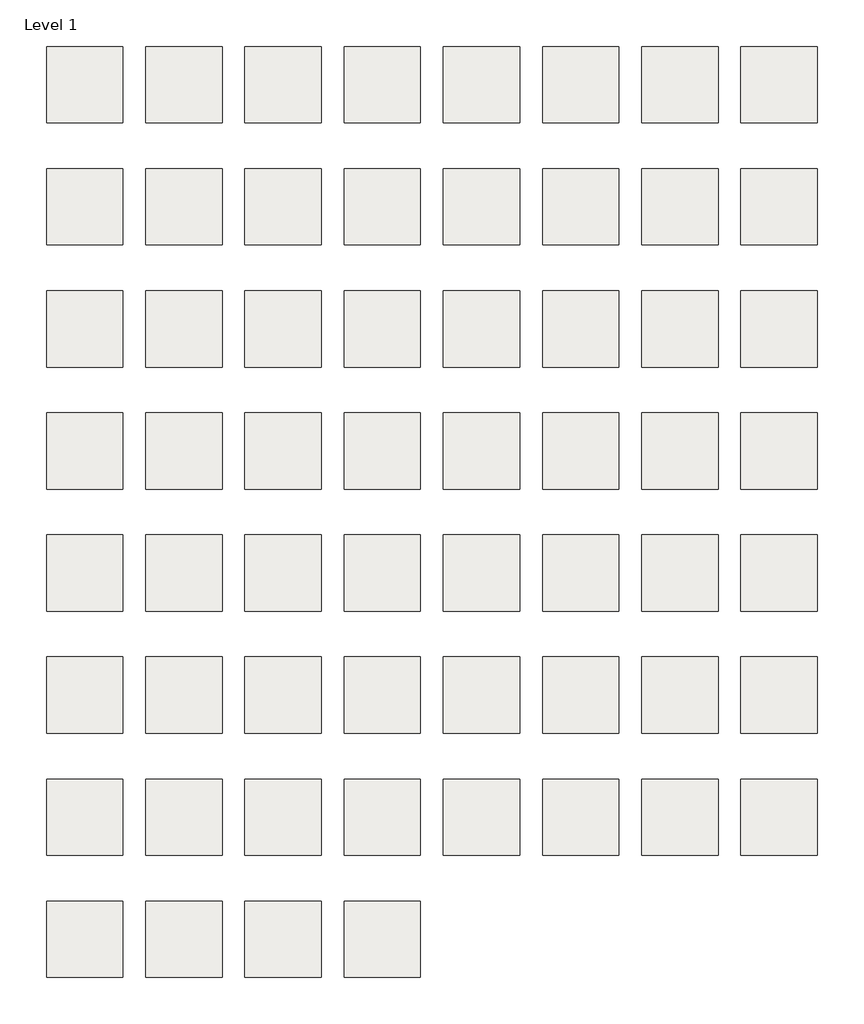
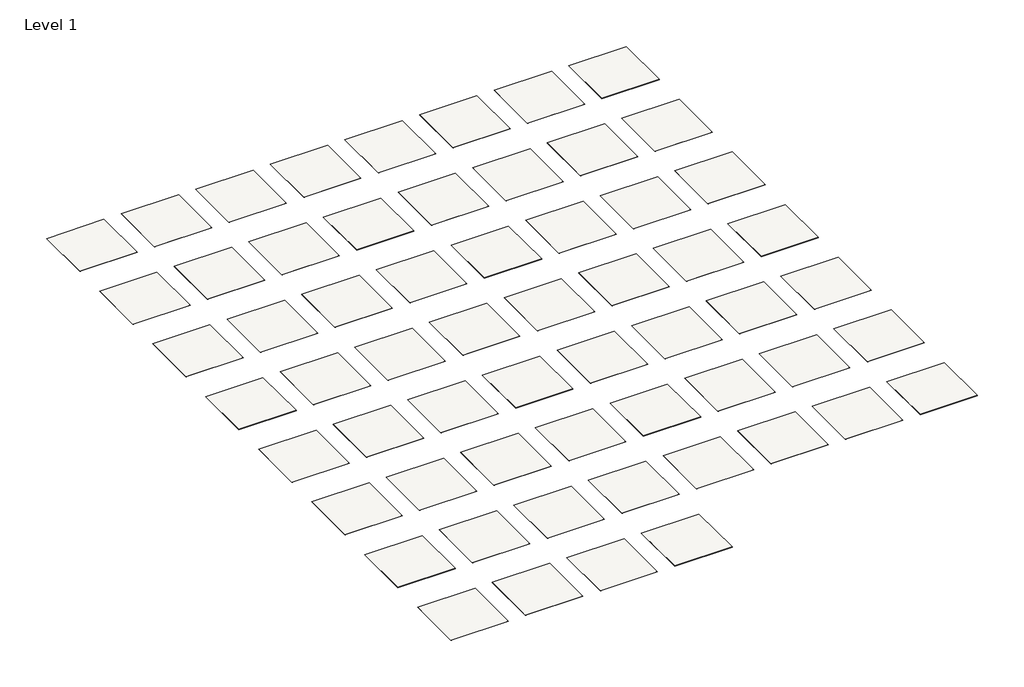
# One storey: 60 slabs.
"""IFC4 building model written with IfcOpenShell, lengths in millimetres."""

from ifc_helpers import new_model, si_unit, frame, origin, place, context, project, spatial, polyline, outline, extrude, element, save

model = new_model("IFC4")

# Units and contexts
model_context = context("Model", 3, world=origin())
ifc_project = project(units=[si_unit("LENGTHUNIT", "METRE", prefix="MILLI")], contexts=[model_context])

# Site, building, storey
site = spatial("IfcSite", under=ifc_project)
building = spatial("IfcBuilding", under=site)
storey = spatial("IfcBuildingStorey", under=building, Name="Level 1", Elevation=0.0)

# Slabs
placement = place(None, origin())
element("IfcSlab", 1, ObjectType="Armstrong_LVT_Natural Creations Arbor Art_NA120_Coastal Crafted Maritime", at=placement, inside=storey, context=model_context, shape_type="SweptSolid", body=[
    extrude(outline(polyline([(11236.4055838, 2884.7695431), (11236.4055838, 1360.7695431), (9712.4055838, 1360.7695431), (9712.4055838, 2884.7695431), (11236.4055838, 2884.7695431)])), frame((0.0, 0.0, -1.984375), z_axis=(0.0, 0.0, 1.0), x_axis=(1.0, 0.0, 0.0)), (0.0, 0.0, 1.0), 1.984375),
])
element("IfcSlab", 2, ObjectType="Armstrong_LVT_Natural Creations Arbor Art_NA121_Coastal Crafted Boardwalk", at=placement, inside=storey, context=model_context, shape_type="SweptSolid", body=[
    extrude(outline(polyline([(13217.6055838, 2884.7695431), (13217.6055838, 1360.7695431), (11693.6055838, 1360.7695431), (11693.6055838, 2884.7695431), (13217.6055838, 2884.7695431)])), frame((0.0, 0.0, -1.984375), z_axis=(0.0, 0.0, 1.0), x_axis=(1.0, 0.0, 0.0)), (0.0, 0.0, 1.0), 1.984375),
])
element("IfcSlab", 3, ObjectType="Armstrong_LVT_Natural Creations Arbor Art_NA125_Urban Industry Rust Brown", at=placement, inside=storey, context=model_context, shape_type="SweptSolid", body=[
    extrude(outline(polyline([(15198.8055838, 2884.7695431), (15198.8055838, 1360.7695431), (13674.8055838, 1360.7695431), (13674.8055838, 2884.7695431), (15198.8055838, 2884.7695431)])), frame((0.0, 0.0, -1.984375), z_axis=(0.0, 0.0, 1.0), x_axis=(1.0, 0.0, 0.0)), (0.0, 0.0, 1.0), 1.984375),
])
element("IfcSlab", 4, ObjectType="Armstrong_LVT_Natural Creations Arbor Art_NA126_Urban Industry Brown Soot", at=placement, inside=storey, context=model_context, shape_type="SweptSolid", body=[
    extrude(outline(polyline([(17180.0055838, 2884.7695431), (17180.0055838, 1360.7695431), (15656.0055838, 1360.7695431), (15656.0055838, 2884.7695431), (17180.0055838, 2884.7695431)])), frame((0.0, 0.0, -1.984375), z_axis=(0.0, 0.0, 1.0), x_axis=(1.0, 0.0, 0.0)), (0.0, 0.0, 1.0), 1.984375),
])
element("IfcSlab", 5, ObjectType="Armstrong_LVT_Natural Creations Arbor Art_NA130_Orchard Estate Dove", at=placement, inside=storey, context=model_context, shape_type="SweptSolid", body=[
    extrude(outline(polyline([(3311.6055838, 446.3695431), (3311.6055838, -1077.6304569), (1787.6055838, -1077.6304569), (1787.6055838, 446.3695431), (3311.6055838, 446.3695431)])), frame((0.0, 0.0, -1.984375), z_axis=(0.0, 0.0, 1.0), x_axis=(1.0, 0.0, 0.0)), (0.0, 0.0, 1.0), 1.984375),
])
element("IfcSlab", 6, ObjectType="Armstrong_LVT_Natural Creations Arbor Art_NA130_Orchard Estate Toasted Sand", at=placement, inside=storey, context=model_context, shape_type="SweptSolid", body=[
    extrude(outline(polyline([(5292.8055838, 446.3695431), (5292.8055838, -1077.6304569), (3768.8055838, -1077.6304569), (3768.8055838, 446.3695431), (5292.8055838, 446.3695431)])), frame((0.0, 0.0, -1.984375), z_axis=(0.0, 0.0, 1.0), x_axis=(1.0, 0.0, 0.0)), (0.0, 0.0, 1.0), 1.984375),
])
element("IfcSlab", 7, ObjectType="Armstrong_LVT_Natural Creations Arbor Art_NA132_Orchard Estate Sienna Sun", at=placement, inside=storey, context=model_context, shape_type="SweptSolid", body=[
    extrude(outline(polyline([(7274.0055838, 446.3695431), (7274.0055838, -1077.6304569), (5750.0055838, -1077.6304569), (5750.0055838, 446.3695431), (7274.0055838, 446.3695431)])), frame((0.0, 0.0, -1.984375), z_axis=(0.0, 0.0, 1.0), x_axis=(1.0, 0.0, 0.0)), (0.0, 0.0, 1.0), 1.984375),
])
element("IfcSlab", 8, ObjectType="Armstrong_LVT_Natural Creations Arbor Art_NA133_Orchard Estate Island Mocha", at=placement, inside=storey, context=model_context, shape_type="SweptSolid", body=[
    extrude(outline(polyline([(9255.2055838, 446.3695431), (9255.2055838, -1077.6304569), (7731.2055838, -1077.6304569), (7731.2055838, 446.3695431), (9255.2055838, 446.3695431)])), frame((0.0, 0.0, -1.984375), z_axis=(0.0, 0.0, 1.0), x_axis=(1.0, 0.0, 0.0)), (0.0, 0.0, 1.0), 1.984375),
])
element("IfcSlab", 9, ObjectType="Armstrong_LVT_Natural Creations Arbor Art_NA140_City Mill Fog", at=placement, inside=storey, context=model_context, shape_type="SweptSolid", body=[
    extrude(outline(polyline([(15198.8055838, 446.3695431), (15198.8055838, -1077.6304569), (13674.8055838, -1077.6304569), (13674.8055838, 446.3695431), (15198.8055838, 446.3695431)])), frame((0.0, 0.0, -1.984375), z_axis=(0.0, 0.0, 1.0), x_axis=(1.0, 0.0, 0.0)), (0.0, 0.0, 1.0), 1.984375),
])
element("IfcSlab", 10, ObjectType="Armstrong_LVT_Natural Creations Arbor Art_NA141_City Mill Gray Morning", at=placement, inside=storey, context=model_context, shape_type="SweptSolid", body=[
    extrude(outline(polyline([(17180.0055838, 446.3695431), (17180.0055838, -1077.6304569), (15656.0055838, -1077.6304569), (15656.0055838, 446.3695431), (17180.0055838, 446.3695431)])), frame((0.0, 0.0, -1.984375), z_axis=(0.0, 0.0, 1.0), x_axis=(1.0, 0.0, 0.0)), (0.0, 0.0, 1.0), 1.984375),
])
element("IfcSlab", 11, ObjectType="Armstrong_LVT_Natural Creations Arbor Art_NA142_City Mill Wind Storm", at=placement, inside=storey, context=model_context, shape_type="SweptSolid", body=[
    extrude(outline(polyline([(3311.6055838, -1992.0304569), (3311.6055838, -3516.0304569), (1787.6055838, -3516.0304569), (1787.6055838, -1992.0304569), (3311.6055838, -1992.0304569)])), frame((0.0, 0.0, -1.984375), z_axis=(0.0, 0.0, 1.0), x_axis=(1.0, 0.0, 0.0)), (0.0, 0.0, 1.0), 1.984375),
])
element("IfcSlab", 12, ObjectType="Armstrong_LVT_Natural Creations Arbor Art_NA143_City Mill Sunbeam", at=placement, inside=storey, context=model_context, shape_type="SweptSolid", body=[
    extrude(outline(polyline([(5292.8055838, -1992.0304569), (5292.8055838, -3516.0304569), (3768.8055838, -3516.0304569), (3768.8055838, -1992.0304569), (5292.8055838, -1992.0304569)])), frame((0.0, 0.0, -1.984375), z_axis=(0.0, 0.0, 1.0), x_axis=(1.0, 0.0, 0.0)), (0.0, 0.0, 1.0), 1.984375),
])
element("IfcSlab", 13, ObjectType="Armstrong_LVT_Natural Creations Arbor Art_NA144_City Mill Autumn Sunset", at=placement, inside=storey, context=model_context, shape_type="SweptSolid", body=[
    extrude(outline(polyline([(7274.0055838, -1992.0304569), (7274.0055838, -3516.0304569), (5750.0055838, -3516.0304569), (5750.0055838, -1992.0304569), (7274.0055838, -1992.0304569)])), frame((0.0, 0.0, -1.984375), z_axis=(0.0, 0.0, 1.0), x_axis=(1.0, 0.0, 0.0)), (0.0, 0.0, 1.0), 1.984375),
])
element("IfcSlab", 14, ObjectType="Armstrong_LVT_Natural Creations Arbor Art_NA145_City Mill Storm Cloud", at=placement, inside=storey, context=model_context, shape_type="SweptSolid", body=[
    extrude(outline(polyline([(9255.2055838, -1992.0304569), (9255.2055838, -3516.0304569), (7731.2055838, -3516.0304569), (7731.2055838, -1992.0304569), (9255.2055838, -1992.0304569)])), frame((0.0, 0.0, -1.984375), z_axis=(0.0, 0.0, 1.0), x_axis=(1.0, 0.0, 0.0)), (0.0, 0.0, 1.0), 1.984375),
])
element("IfcSlab", 15, ObjectType="Armstrong_LVT_Natural Creations Arbor Art_NA153_Artisan Crafted Sumac", at=placement, inside=storey, context=model_context, shape_type="SweptSolid", body=[
    extrude(outline(polyline([(17180.0055838, -1992.0304569), (17180.0055838, -3516.0304569), (15656.0055838, -3516.0304569), (15656.0055838, -1992.0304569), (17180.0055838, -1992.0304569)])), frame((0.0, 0.0, -1.984375), z_axis=(0.0, 0.0, 1.0), x_axis=(1.0, 0.0, 0.0)), (0.0, 0.0, 1.0), 1.984375),
])
element("IfcSlab", 16, ObjectType="Armstrong_LVT_Natural Creations Arbor Art_NA161_Ironwood Oak Hour Glass", at=placement, inside=storey, context=model_context, shape_type="SweptSolid", body=[
    extrude(outline(polyline([(5292.8055838, -4430.4304569), (5292.8055838, -5954.4304569), (3768.8055838, -5954.4304569), (3768.8055838, -4430.4304569), (5292.8055838, -4430.4304569)])), frame((0.0, 0.0, -1.984375), z_axis=(0.0, 0.0, 1.0), x_axis=(1.0, 0.0, 0.0)), (0.0, 0.0, 1.0), 1.984375),
])
element("IfcSlab", 17, ObjectType="Armstrong_LVT_Natural Creations Arbor Art_NA163_Ironwood Oak Iron Era", at=placement, inside=storey, context=model_context, shape_type="SweptSolid", body=[
    extrude(outline(polyline([(9255.2055838, -4430.4304569), (9255.2055838, -5954.4304569), (7731.2055838, -5954.4304569), (7731.2055838, -4430.4304569), (9255.2055838, -4430.4304569)])), frame((0.0, 0.0, -1.984375), z_axis=(0.0, 0.0, 1.0), x_axis=(1.0, 0.0, 0.0)), (0.0, 0.0, 1.0), 1.984375),
])
element("IfcSlab", 18, ObjectType="Armstrong_LVT_Natural Creations Arbor Art_NA164_Ironwood Oak Metallic Moment", at=placement, inside=storey, context=model_context, shape_type="SweptSolid", body=[
    extrude(outline(polyline([(11236.4055838, -4430.4304569), (11236.4055838, -5954.4304569), (9712.4055838, -5954.4304569), (9712.4055838, -4430.4304569), (11236.4055838, -4430.4304569)])), frame((0.0, 0.0, -1.984375), z_axis=(0.0, 0.0, 1.0), x_axis=(1.0, 0.0, 0.0)), (0.0, 0.0, 1.0), 1.984375),
])
element("IfcSlab", 19, ObjectType="Armstrong_LVT_Natural Creations Arbor Art_NA171_Solano Maple Sweet Sap", at=placement, inside=storey, context=model_context, shape_type="SweptSolid", body=[
    extrude(outline(polyline([(15198.8055838, -4430.4304569), (15198.8055838, -5954.4304569), (13674.8055838, -5954.4304569), (13674.8055838, -4430.4304569), (15198.8055838, -4430.4304569)])), frame((0.0, 0.0, -1.984375), z_axis=(0.0, 0.0, 1.0), x_axis=(1.0, 0.0, 0.0)), (0.0, 0.0, 1.0), 1.984375),
])
element("IfcSlab", 20, ObjectType="Armstrong_LVT_Natural Creations Arbor Art_NA172_Solano Maple Brown Sugar", at=placement, inside=storey, context=model_context, shape_type="SweptSolid", body=[
    extrude(outline(polyline([(17180.0055838, -4430.4304569), (17180.0055838, -5954.4304569), (15656.0055838, -5954.4304569), (15656.0055838, -4430.4304569), (17180.0055838, -4430.4304569)])), frame((0.0, 0.0, -1.984375), z_axis=(0.0, 0.0, 1.0), x_axis=(1.0, 0.0, 0.0)), (0.0, 0.0, 1.0), 1.984375),
])
element("IfcSlab", 21, ObjectType="Armstrong_LVT_Natural Creations Arbor Art_NA176_Stonewood Concrete", at=placement, inside=storey, context=model_context, shape_type="SweptSolid", body=[
    extrude(outline(polyline([(3311.6055838, -6868.8304569), (3311.6055838, -8392.8304569), (1787.6055838, -8392.8304569), (1787.6055838, -6868.8304569), (3311.6055838, -6868.8304569)])), frame((0.0, 0.0, -1.984375), z_axis=(0.0, 0.0, 1.0), x_axis=(1.0, 0.0, 0.0)), (0.0, 0.0, 1.0), 1.984375),
])
element("IfcSlab", 22, ObjectType="Armstrong_LVT_Natural Creations Arbor Art_NA182_Galena Oak Wild Grain", at=placement, inside=storey, context=model_context, shape_type="SweptSolid", body=[
    extrude(outline(polyline([(9255.2055838, -6868.8304569), (9255.2055838, -8392.8304569), (7731.2055838, -8392.8304569), (7731.2055838, -6868.8304569), (9255.2055838, -6868.8304569)])), frame((0.0, 0.0, -1.984375), z_axis=(0.0, 0.0, 1.0), x_axis=(1.0, 0.0, 0.0)), (0.0, 0.0, 1.0), 1.984375),
])
element("IfcSlab", 23, ObjectType="Armstrong_LVT_Natural Creations Arbor Art_NA190_Avila Oak Moroccan Sand", at=placement, inside=storey, context=model_context, shape_type="SweptSolid", body=[
    extrude(outline(polyline([(13217.6055838, -6868.8304569), (13217.6055838, -8392.8304569), (11693.6055838, -8392.8304569), (11693.6055838, -6868.8304569), (13217.6055838, -6868.8304569)])), frame((0.0, 0.0, -1.984375), z_axis=(0.0, 0.0, 1.0), x_axis=(1.0, 0.0, 0.0)), (0.0, 0.0, 1.0), 1.984375),
])
element("IfcSlab", 24, ObjectType="Armstrong_LVT_Natural Creations Arbor Art_NA191_Avila Oak Warm Capri", at=placement, inside=storey, context=model_context, shape_type="SweptSolid", body=[
    extrude(outline(polyline([(15198.8055838, -6868.8304569), (15198.8055838, -8392.8304569), (13674.8055838, -8392.8304569), (13674.8055838, -6868.8304569), (15198.8055838, -6868.8304569)])), frame((0.0, 0.0, -1.984375), z_axis=(0.0, 0.0, 1.0), x_axis=(1.0, 0.0, 0.0)), (0.0, 0.0, 1.0), 1.984375),
])
element("IfcSlab", 25, ObjectType="Armstrong_LVT_Natural Creations Arbor Art_NA193_Avila Oak Vienna Smoke", at=placement, inside=storey, context=model_context, shape_type="SweptSolid", body=[
    extrude(outline(polyline([(3311.6055838, -9307.2304569), (3311.6055838, -10831.2304569), (1787.6055838, -10831.2304569), (1787.6055838, -9307.2304569), (3311.6055838, -9307.2304569)])), frame((0.0, 0.0, -1.984375), z_axis=(0.0, 0.0, 1.0), x_axis=(1.0, 0.0, 0.0)), (0.0, 0.0, 1.0), 1.984375),
])
element("IfcSlab", 26, ObjectType="Armstrong_LVT_Natural Creations Arbor Art_NA194_Avila Oak Madrid Grey", at=placement, inside=storey, context=model_context, shape_type="SweptSolid", body=[
    extrude(outline(polyline([(5292.8055838, -9307.2304569), (5292.8055838, -10831.2304569), (3768.8055838, -10831.2304569), (3768.8055838, -9307.2304569), (5292.8055838, -9307.2304569)])), frame((0.0, 0.0, -1.984375), z_axis=(0.0, 0.0, 1.0), x_axis=(1.0, 0.0, 0.0)), (0.0, 0.0, 1.0), 1.984375),
])
element("IfcSlab", 27, ObjectType="Armstrong_LVT_Natural Creations Arbor Art_NA195_Avila Oak Baltic Black", at=placement, inside=storey, context=model_context, shape_type="SweptSolid", body=[
    extrude(outline(polyline([(7274.0055838, -9307.2304569), (7274.0055838, -10831.2304569), (5750.0055838, -10831.2304569), (5750.0055838, -9307.2304569), (7274.0055838, -9307.2304569)])), frame((0.0, 0.0, -1.984375), z_axis=(0.0, 0.0, 1.0), x_axis=(1.0, 0.0, 0.0)), (0.0, 0.0, 1.0), 1.984375),
])
element("IfcSlab", 28, ObjectType="Armstrong_LVT_Natural Creations Arbor Art_NA210_Sawmark Rustic Aloma", at=placement, inside=storey, context=model_context, shape_type="SweptSolid", body=[
    extrude(outline(polyline([(9255.2055838, -9307.2304569), (9255.2055838, -10831.2304569), (7731.2055838, -10831.2304569), (7731.2055838, -9307.2304569), (9255.2055838, -9307.2304569)])), frame((0.0, 0.0, -1.984375), z_axis=(0.0, 0.0, 1.0), x_axis=(1.0, 0.0, 0.0)), (0.0, 0.0, 1.0), 1.984375),
])
element("IfcSlab", 29, ObjectType="Armstrong_LVT_Natural Creations Arbor Art_NA211_Sawmark Rustic Weston", at=placement, inside=storey, context=model_context, shape_type="SweptSolid", body=[
    extrude(outline(polyline([(11236.4055838, -9307.2304569), (11236.4055838, -10831.2304569), (9712.4055838, -10831.2304569), (9712.4055838, -9307.2304569), (11236.4055838, -9307.2304569)])), frame((0.0, 0.0, -1.984375), z_axis=(0.0, 0.0, 1.0), x_axis=(1.0, 0.0, 0.0)), (0.0, 0.0, 1.0), 1.984375),
])
element("IfcSlab", 30, ObjectType="Armstrong_LVT_Natural Creations Arbor Art_NA215_Fine Line Bamboo Baja Tan", at=placement, inside=storey, context=model_context, shape_type="SweptSolid", body=[
    extrude(outline(polyline([(13217.6055838, -9307.2304569), (13217.6055838, -10831.2304569), (11693.6055838, -10831.2304569), (11693.6055838, -9307.2304569), (13217.6055838, -9307.2304569)])), frame((0.0, 0.0, -1.984375), z_axis=(0.0, 0.0, 1.0), x_axis=(1.0, 0.0, 0.0)), (0.0, 0.0, 1.0), 1.984375),
])
element("IfcSlab", 31, ObjectType="Armstrong_LVT_Natural Creations Arbor Art_NA216_Fine Line Bamboo Titian Gold", at=placement, inside=storey, context=model_context, shape_type="SweptSolid", body=[
    extrude(outline(polyline([(15198.8055838, -9307.2304569), (15198.8055838, -10831.2304569), (13674.8055838, -10831.2304569), (13674.8055838, -9307.2304569), (15198.8055838, -9307.2304569)])), frame((0.0, 0.0, -1.984375), z_axis=(0.0, 0.0, 1.0), x_axis=(1.0, 0.0, 0.0)), (0.0, 0.0, 1.0), 1.984375),
])
element("IfcSlab", 32, ObjectType="Armstrong_LVT_Natural Creations Arbor Art_NA225_Tustin Navale Saddle Rust", at=placement, inside=storey, context=model_context, shape_type="SweptSolid", body=[
    extrude(outline(polyline([(7274.0055838, -11745.6304569), (7274.0055838, -13269.6304569), (5750.0055838, -13269.6304569), (5750.0055838, -11745.6304569), (7274.0055838, -11745.6304569)])), frame((0.0, 0.0, -1.984375), z_axis=(0.0, 0.0, 1.0), x_axis=(1.0, 0.0, 0.0)), (0.0, 0.0, 1.0), 1.984375),
])
element("IfcSlab", 33, ObjectType="Armstrong_LVT_Natural Creations Arbor Art_NA245_Tidal Impressions Coconut", at=placement, inside=storey, context=model_context, shape_type="SweptSolid", body=[
    extrude(outline(polyline([(5292.8055838, -14184.0304569), (5292.8055838, -15708.0304569), (3768.8055838, -15708.0304569), (3768.8055838, -14184.0304569), (5292.8055838, -14184.0304569)])), frame((0.0, 0.0, -1.984375), z_axis=(0.0, 0.0, 1.0), x_axis=(1.0, 0.0, 0.0)), (0.0, 0.0, 1.0), 1.984375),
])
element("IfcSlab", 34, ObjectType="Armstrong_LVT_Natural Creations Arbor Art_NA246_Tidal Impressions Macaroon", at=placement, inside=storey, context=model_context, shape_type="SweptSolid", body=[
    extrude(outline(polyline([(7274.0055838, -14184.0304569), (7274.0055838, -15708.0304569), (5750.0055838, -15708.0304569), (5750.0055838, -14184.0304569), (7274.0055838, -14184.0304569)])), frame((0.0, 0.0, -1.984375), z_axis=(0.0, 0.0, 1.0), x_axis=(1.0, 0.0, 0.0)), (0.0, 0.0, 1.0), 1.984375),
])
element("IfcSlab", 35, ObjectType="Armstrong_LVT_Natural Creations Arbor Art_NA247_Tidal Impressions Fig", at=placement, inside=storey, context=model_context, shape_type="SweptSolid", body=[
    extrude(outline(polyline([(9255.2055838, -14184.0304569), (9255.2055838, -15708.0304569), (7731.2055838, -15708.0304569), (7731.2055838, -14184.0304569), (9255.2055838, -14184.0304569)])), frame((0.0, 0.0, -1.984375), z_axis=(0.0, 0.0, 1.0), x_axis=(1.0, 0.0, 0.0)), (0.0, 0.0, 1.0), 1.984375),
])
element("IfcSlab", 36, ObjectType="Armstrong_LVT_Natural Creations Arbor Art_NA020_Walnut Auburn", at=placement, inside=storey, context=model_context, shape_type="SweptSolid", body=[
    extrude(outline(polyline([(3311.6055838, 2884.7695431), (3311.6055838, 1360.7695431), (1787.6055838, 1360.7695431), (1787.6055838, 2884.7695431), (3311.6055838, 2884.7695431)])), frame((0.0, 0.0, -1.984375), z_axis=(0.0, 0.0, 1.0), x_axis=(1.0, 0.0, 0.0)), (0.0, 0.0, 1.0), 1.984375),
])
element("IfcSlab", 37, ObjectType="Armstrong_LVT_Natural Creations Arbor Art_NA110_Alder Alore Pencilwood", at=placement, inside=storey, context=model_context, shape_type="SweptSolid", body=[
    extrude(outline(polyline([(5292.8055838, 2884.7695431), (5292.8055838, 1360.7695431), (3768.8055838, 1360.7695431), (3768.8055838, 2884.7695431), (5292.8055838, 2884.7695431)])), frame((0.0, 0.0, -1.984375), z_axis=(0.0, 0.0, 1.0), x_axis=(1.0, 0.0, 0.0)), (0.0, 0.0, 1.0), 1.984375),
])
element("IfcSlab", 38, ObjectType="Armstrong_LVT_Natural Creations Arbor Art_NA115 Harvest Ridge Scotch", at=placement, inside=storey, context=model_context, shape_type="SweptSolid", body=[
    extrude(outline(polyline([(7274.0055838, 2884.7695431), (7274.0055838, 1360.7695431), (5750.0055838, 1360.7695431), (5750.0055838, 2884.7695431), (7274.0055838, 2884.7695431)])), frame((0.0, 0.0, -1.984375), z_axis=(0.0, 0.0, 1.0), x_axis=(1.0, 0.0, 0.0)), (0.0, 0.0, 1.0), 1.984375),
])
element("IfcSlab", 39, ObjectType="Armstrong_LVT_Natural Creations Arbor Art_NA116 Harvest Ridge Cognac", at=placement, inside=storey, context=model_context, shape_type="SweptSolid", body=[
    extrude(outline(polyline([(9255.2055838, 2884.7695431), (9255.2055838, 1360.7695431), (7731.2055838, 1360.7695431), (7731.2055838, 2884.7695431), (9255.2055838, 2884.7695431)])), frame((0.0, 0.0, -1.984375), z_axis=(0.0, 0.0, 1.0), x_axis=(1.0, 0.0, 0.0)), (0.0, 0.0, 1.0), 1.984375),
])
element("IfcSlab", 40, ObjectType="Armstrong_LVT_Natural Creations Arbor Art_NA134_Orchard Estate Gull Grey", at=placement, inside=storey, context=model_context, shape_type="SweptSolid", body=[
    extrude(outline(polyline([(11236.4055838, 446.3695431), (11236.4055838, -1077.6304569), (9712.4055838, -1077.6304569), (9712.4055838, 446.3695431), (11236.4055838, 446.3695431)])), frame((0.0, 0.0, -1.984375), z_axis=(0.0, 0.0, 1.0), x_axis=(1.0, 0.0, 0.0)), (0.0, 0.0, 1.0), 1.984375),
])
element("IfcSlab", 41, ObjectType="Armstrong_LVT_Natural Creations Arbor Art_NA135_Orchard Estate Oyster", at=placement, inside=storey, context=model_context, shape_type="SweptSolid", body=[
    extrude(outline(polyline([(13217.6055838, 446.3695431), (13217.6055838, -1077.6304569), (11693.6055838, -1077.6304569), (11693.6055838, 446.3695431), (13217.6055838, 446.3695431)])), frame((0.0, 0.0, -1.984375), z_axis=(0.0, 0.0, 1.0), x_axis=(1.0, 0.0, 0.0)), (0.0, 0.0, 1.0), 1.984375),
])
element("IfcSlab", 42, ObjectType="Armstrong_LVT_Natural Creations Arbor Art_NA150 Artisan Crafted Ginger", at=placement, inside=storey, context=model_context, shape_type="SweptSolid", body=[
    extrude(outline(polyline([(11236.4055838, -1992.0304569), (11236.4055838, -3516.0304569), (9712.4055838, -3516.0304569), (9712.4055838, -1992.0304569), (11236.4055838, -1992.0304569)])), frame((0.0, 0.0, -1.984375), z_axis=(0.0, 0.0, 1.0), x_axis=(1.0, 0.0, 0.0)), (0.0, 0.0, 1.0), 1.984375),
])
element("IfcSlab", 43, ObjectType="Armstrong_LVT_Natural Creations Arbor Art_NA151 Artisan Crafted Tumeric", at=placement, inside=storey, context=model_context, shape_type="SweptSolid", body=[
    extrude(outline(polyline([(13217.6055838, -1992.0304569), (13217.6055838, -3516.0304569), (11693.6055838, -3516.0304569), (11693.6055838, -1992.0304569), (13217.6055838, -1992.0304569)])), frame((0.0, 0.0, -1.984375), z_axis=(0.0, 0.0, 1.0), x_axis=(1.0, 0.0, 0.0)), (0.0, 0.0, 1.0), 1.984375),
])
element("IfcSlab", 44, ObjectType="Armstrong_LVT_Natural Creations Arbor Art_NA152 Artisan Crafted Paprika", at=placement, inside=storey, context=model_context, shape_type="SweptSolid", body=[
    extrude(outline(polyline([(15198.8055838, -1992.0304569), (15198.8055838, -3516.0304569), (13674.8055838, -3516.0304569), (13674.8055838, -1992.0304569), (15198.8055838, -1992.0304569)])), frame((0.0, 0.0, -1.984375), z_axis=(0.0, 0.0, 1.0), x_axis=(1.0, 0.0, 0.0)), (0.0, 0.0, 1.0), 1.984375),
])
element("IfcSlab", 45, ObjectType="Armstrong_LVT_Natural Creations Arbor Art_NA162_Ironwood Oak Midnight Strikes", at=placement, inside=storey, context=model_context, shape_type="SweptSolid", body=[
    extrude(outline(polyline([(7274.0055838, -4430.4304569), (7274.0055838, -5954.4304569), (5750.0055838, -5954.4304569), (5750.0055838, -4430.4304569), (7274.0055838, -4430.4304569)])), frame((0.0, 0.0, -1.984375), z_axis=(0.0, 0.0, 1.0), x_axis=(1.0, 0.0, 0.0)), (0.0, 0.0, 1.0), 1.984375),
])
element("IfcSlab", 46, ObjectType="Armstrong_LVT_Natural Creations Arbor Art_NA170_Solano Maple Honeysuckle", at=placement, inside=storey, context=model_context, shape_type="SweptSolid", body=[
    extrude(outline(polyline([(13217.6055838, -4430.4304569), (13217.6055838, -5954.4304569), (11693.6055838, -5954.4304569), (11693.6055838, -4430.4304569), (13217.6055838, -4430.4304569)])), frame((0.0, 0.0, -1.984375), z_axis=(0.0, 0.0, 1.0), x_axis=(1.0, 0.0, 0.0)), (0.0, 0.0, 1.0), 1.984375),
])
element("IfcSlab", 47, ObjectType="Armstrong_LVT_Natural Creations Arbor Art_NA181_Galena Oak Wheat", at=placement, inside=storey, context=model_context, shape_type="SweptSolid", body=[
    extrude(outline(polyline([(7274.0055838, -6868.8304569), (7274.0055838, -8392.8304569), (5750.0055838, -8392.8304569), (5750.0055838, -6868.8304569), (7274.0055838, -6868.8304569)])), frame((0.0, 0.0, -1.984375), z_axis=(0.0, 0.0, 1.0), x_axis=(1.0, 0.0, 0.0)), (0.0, 0.0, 1.0), 1.984375),
])
element("IfcSlab", 48, ObjectType="Armstrong_LVT_Natural Creations Arbor Art_NA180_Galena Oak Rye", at=placement, inside=storey, context=model_context, shape_type="SweptSolid", body=[
    extrude(outline(polyline([(5292.8055838, -6868.8304569), (5292.8055838, -8392.8304569), (3768.8055838, -8392.8304569), (3768.8055838, -6868.8304569), (5292.8055838, -6868.8304569)])), frame((0.0, 0.0, -1.984375), z_axis=(0.0, 0.0, 1.0), x_axis=(1.0, 0.0, 0.0)), (0.0, 0.0, 1.0), 1.984375),
])
element("IfcSlab", 49, ObjectType="Armstrong_LVT_Natural Creations Arbor Art_NA185_Bamboo Caramelized", at=placement, inside=storey, context=model_context, shape_type="SweptSolid", body=[
    extrude(outline(polyline([(11236.4055838, -6868.8304569), (11236.4055838, -8392.8304569), (9712.4055838, -8392.8304569), (9712.4055838, -6868.8304569), (11236.4055838, -6868.8304569)])), frame((0.0, 0.0, -1.984375), z_axis=(0.0, 0.0, 1.0), x_axis=(1.0, 0.0, 0.0)), (0.0, 0.0, 1.0), 1.984375),
])
element("IfcSlab", 50, ObjectType="Armstrong_LVT_Natural Creations Arbor Art_NA192_Avila Oak Peruvian Cocoa", at=placement, inside=storey, context=model_context, shape_type="SweptSolid", body=[
    extrude(outline(polyline([(17180.0055838, -6868.8304569), (17180.0055838, -8392.8304569), (15656.0055838, -8392.8304569), (15656.0055838, -6868.8304569), (17180.0055838, -6868.8304569)])), frame((0.0, 0.0, -1.984375), z_axis=(0.0, 0.0, 1.0), x_axis=(1.0, 0.0, 0.0)), (0.0, 0.0, 1.0), 1.984375),
])
element("IfcSlab", 51, ObjectType="Armstrong_LVT_Natural Creations Arbor Art_NA217_Fine Line Bamboo Malibu Shadows", at=placement, inside=storey, context=model_context, shape_type="SweptSolid", body=[
    extrude(outline(polyline([(17180.0055838, -9307.2304569), (17180.0055838, -10831.2304569), (15656.0055838, -10831.2304569), (15656.0055838, -9307.2304569), (17180.0055838, -9307.2304569)])), frame((0.0, 0.0, -1.984375), z_axis=(0.0, 0.0, 1.0), x_axis=(1.0, 0.0, 0.0)), (0.0, 0.0, 1.0), 1.984375),
])
element("IfcSlab", 52, ObjectType="Armstrong_LVT_Natural Creations Arbor Art_NA220_Exotic Tigerwood Amber", at=placement, inside=storey, context=model_context, shape_type="SweptSolid", body=[
    extrude(outline(polyline([(3311.6055838, -11745.6304569), (3311.6055838, -13269.6304569), (1787.6055838, -13269.6304569), (1787.6055838, -11745.6304569), (3311.6055838, -11745.6304569)])), frame((0.0, 0.0, -1.984375), z_axis=(0.0, 0.0, 1.0), x_axis=(1.0, 0.0, 0.0)), (0.0, 0.0, 1.0), 1.984375),
])
element("IfcSlab", 53, ObjectType="Armstrong_LVT_Natural Creations Arbor Art_NA221_Exotic Tigerwood Sable", at=placement, inside=storey, context=model_context, shape_type="SweptSolid", body=[
    extrude(outline(polyline([(5292.8055838, -11745.6304569), (5292.8055838, -13269.6304569), (3768.8055838, -13269.6304569), (3768.8055838, -11745.6304569), (5292.8055838, -11745.6304569)])), frame((0.0, 0.0, -1.984375), z_axis=(0.0, 0.0, 1.0), x_axis=(1.0, 0.0, 0.0)), (0.0, 0.0, 1.0), 1.984375),
])
element("IfcSlab", 54, ObjectType="Armstrong_LVT_Natural Creations Arbor Art_NA230_Walnut Blonde", at=placement, inside=storey, context=model_context, shape_type="SweptSolid", body=[
    extrude(outline(polyline([(9255.2055838, -11745.6304569), (9255.2055838, -13269.6304569), (7731.2055838, -13269.6304569), (7731.2055838, -11745.6304569), (9255.2055838, -11745.6304569)])), frame((0.0, 0.0, -1.984375), z_axis=(0.0, 0.0, 1.0), x_axis=(1.0, 0.0, 0.0)), (0.0, 0.0, 1.0), 1.984375),
])
element("IfcSlab", 55, ObjectType="Armstrong_LVT_Natural Creations Arbor Art_NA231_Walnut Brunette", at=placement, inside=storey, context=model_context, shape_type="SweptSolid", body=[
    extrude(outline(polyline([(11236.4055838, -11745.6304569), (11236.4055838, -13269.6304569), (9712.4055838, -13269.6304569), (9712.4055838, -11745.6304569), (11236.4055838, -11745.6304569)])), frame((0.0, 0.0, -1.984375), z_axis=(0.0, 0.0, 1.0), x_axis=(1.0, 0.0, 0.0)), (0.0, 0.0, 1.0), 1.984375),
])
element("IfcSlab", 56, ObjectType="Armstrong_LVT_Natural Creations Arbor Art_NA235_Weathered Arbor Light Doe", at=placement, inside=storey, context=model_context, shape_type="SweptSolid", body=[
    extrude(outline(polyline([(13217.6055838, -11745.6304569), (13217.6055838, -13269.6304569), (11693.6055838, -13269.6304569), (11693.6055838, -11745.6304569), (13217.6055838, -11745.6304569)])), frame((0.0, 0.0, -1.984375), z_axis=(0.0, 0.0, 1.0), x_axis=(1.0, 0.0, 0.0)), (0.0, 0.0, 1.0), 1.984375),
])
element("IfcSlab", 57, ObjectType="Armstrong_LVT_Natural Creations Arbor Art_NA236_Weathered Arbor Fawn", at=placement, inside=storey, context=model_context, shape_type="SweptSolid", body=[
    extrude(outline(polyline([(15198.8055838, -11745.6304569), (15198.8055838, -13269.6304569), (13674.8055838, -13269.6304569), (13674.8055838, -11745.6304569), (15198.8055838, -11745.6304569)])), frame((0.0, 0.0, -1.984375), z_axis=(0.0, 0.0, 1.0), x_axis=(1.0, 0.0, 0.0)), (0.0, 0.0, 1.0), 1.984375),
])
element("IfcSlab", 58, ObjectType="Armstrong_LVT_Natural Creations Arbor Art_NA237_Weathered Arbor Grizzly", at=placement, inside=storey, context=model_context, shape_type="SweptSolid", body=[
    extrude(outline(polyline([(17180.0055838, -11745.6304569), (17180.0055838, -13269.6304569), (15656.0055838, -13269.6304569), (15656.0055838, -11745.6304569), (17180.0055838, -11745.6304569)])), frame((0.0, 0.0, -1.984375), z_axis=(0.0, 0.0, 1.0), x_axis=(1.0, 0.0, 0.0)), (0.0, 0.0, 1.0), 1.984375),
])
element("IfcSlab", 59, ObjectType="Armstrong_LVT_Natural Creations Arbor Art_NA240_Cereza Warm Cherry", at=placement, inside=storey, context=model_context, shape_type="SweptSolid", body=[
    extrude(outline(polyline([(3311.6055838, -14184.0304569), (3311.6055838, -15708.0304569), (1787.6055838, -15708.0304569), (1787.6055838, -14184.0304569), (3311.6055838, -14184.0304569)])), frame((0.0, 0.0, -1.984375), z_axis=(0.0, 0.0, 1.0), x_axis=(1.0, 0.0, 0.0)), (0.0, 0.0, 1.0), 1.984375),
])
element("IfcSlab", 60, ObjectType="Armstrong_LVT_Natural Creations Arbor Art_NA160_Ironwood Oak sands of time", at=placement, inside=storey, context=model_context, shape_type="SweptSolid", body=[
    extrude(outline(polyline([(3311.6055838, -4430.4304569), (3311.6055838, -5954.4304569), (1787.6055838, -5954.4304569), (1787.6055838, -4430.4304569), (3311.6055838, -4430.4304569)])), frame((0.0, 0.0, -1.984375), z_axis=(0.0, 0.0, 1.0), x_axis=(1.0, 0.0, 0.0)), (0.0, 0.0, 1.0), 1.984375),
])

save(model, "model.ifc")
